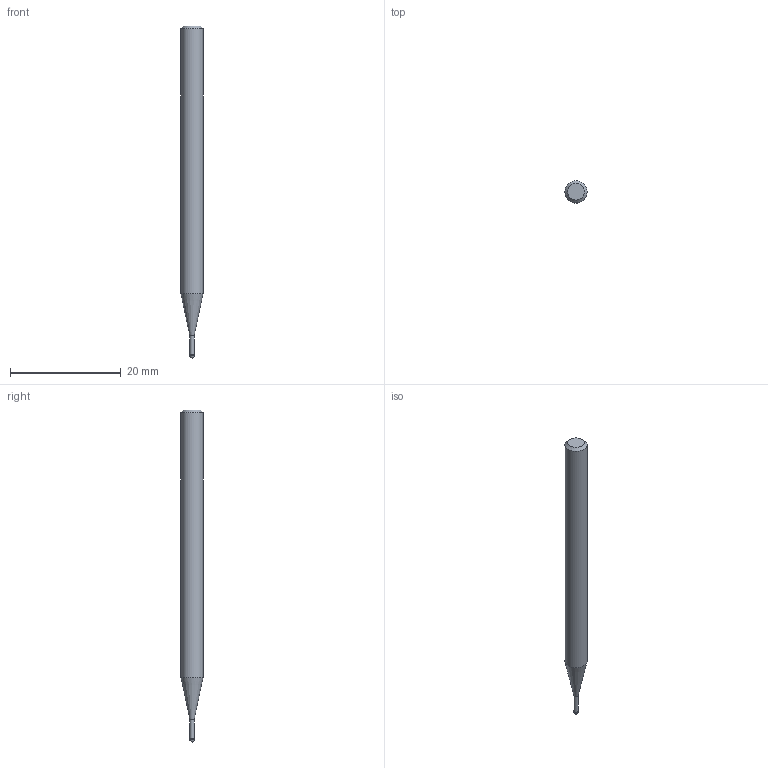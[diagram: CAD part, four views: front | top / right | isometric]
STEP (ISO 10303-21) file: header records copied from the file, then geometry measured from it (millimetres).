
FILE_DESCRIPTION((''),'2;1');
FILE_NAME('C:\Users\nsx150\AppData\Local\Temp\Mastercam 2021\EUJSUNXURU\TEMP.step','2021-04-22T10:22:38',(''),(''),'STEP Write','Mastercam 2021 ... CNC Software, Inc.','');
FILE_SCHEMA(('AUTOMOTIVE_DESIGN'));
Length unit declared in the file: millimetre
Products named in the file (1): None
Bounding box: 4 x 4 x 60 mm (x, y, z)
Volume: 647.4 mm3; surface area: 685.3 mm2
Topology: 2 solids, 2 shells, 9 faces, 14 edges, 8 vertices
Faces by surface type: plane 3, cylinder 3, cone 2, sphere 1
Full cylindrical faces by diameter (mm): 0.76 x1, 0.8 x1, 4 x1
Entity records: 211 total; most frequent: DIRECTION 36, CARTESIAN_POINT 25, AXIS2_PLACEMENT_3D 18, ORIENTED_EDGE 14, EDGE_LOOP 14, STYLED_ITEM 12, ADVANCED_FACE 9, FACE_BOUND 8
